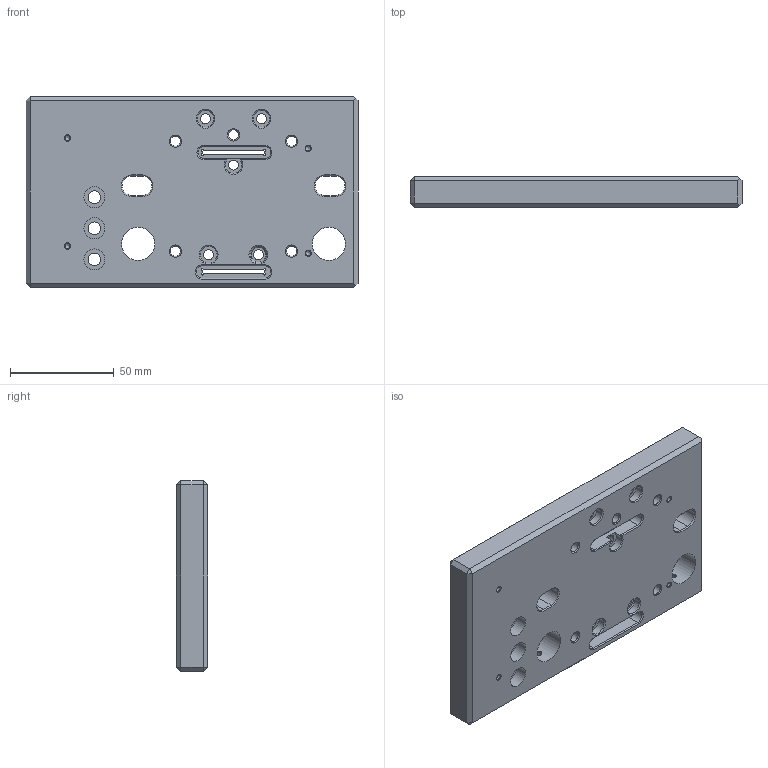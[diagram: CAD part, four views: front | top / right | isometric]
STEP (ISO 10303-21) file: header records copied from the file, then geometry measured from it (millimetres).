
FILE_DESCRIPTION(/* description */ (''),/* implementation_level */ '2;1');
FILE_NAME(/* name */ 'D:\IN 制图\设备\手动剥线机带侧刀4.02\工程图\底座手动版 4.02-2.stp',/* time_stamp */ '2026-06-22T11:09:42+08:00',/* author */ ('ROG'),/* organization */ (''),/* preprocessor_version */ 'ST-DEVELOPER v19',/* originating_system */ 'Autodesk Inventor 2023',/* authorisation */ '');
FILE_SCHEMA (('AUTOMOTIVE_DESIGN { 1 0 10303 214 3 1 1 }'));
Length unit declared in the file: millimetre
Products named in the file (1): 基座L
Bounding box: 160 x 15 x 92 mm (x, y, z)
Volume: 197415.8 mm3; surface area: 42714.2 mm2
Topology: 1 solids, 1 shells, 177 faces, 433 edges, 272 vertices
Faces by surface type: plane 90, cylinder 49, cone 36, bspline 2
Full cylindrical faces by diameter (mm): 2.459 x6, 4.8 x5, 4.917 x5, 6 x2, 6.1 x3, 8.1 x4, 10.1 x3, 16 x2
Entity records: 5724 total; most frequent: CARTESIAN_POINT 1271, DIRECTION 912, ORIENTED_EDGE 858, EDGE_CURVE 429, AXIS2_PLACEMENT_3D 315, LINE 282, VECTOR 282, VERTEX_POINT 272
